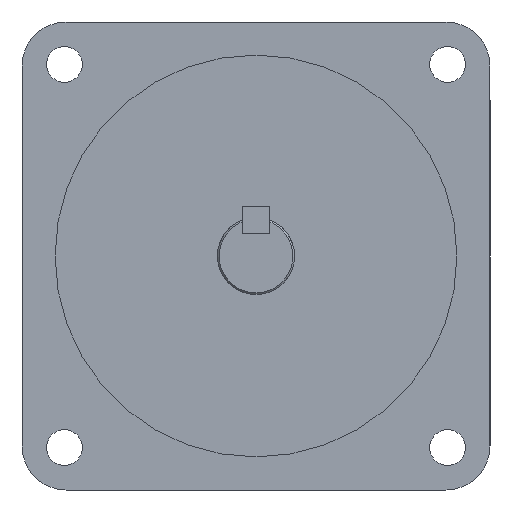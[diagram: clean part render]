
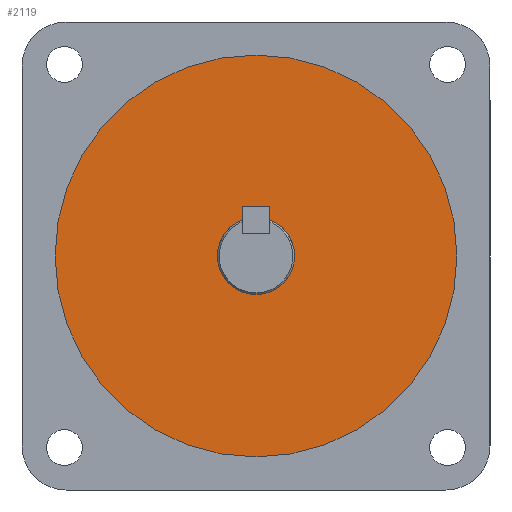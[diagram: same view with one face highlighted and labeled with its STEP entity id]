
A CAD part, left-side view. The second image highlights one B-rep face of the part: STEP entity #2119.
In plain terms, the highlighted planar face has unit normal (-1, 0, 0).
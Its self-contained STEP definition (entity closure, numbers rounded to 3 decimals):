
#7 = VERTEX_POINT ( 'NONE', #2436 ) ;
#60 = AXIS2_PLACEMENT_3D ( 'NONE', #2838, #2529, #2242 ) ;
#145 = EDGE_CURVE ( 'NONE', #1381, #2190, #1468, .T. ) ;
#214 = DIRECTION ( 'NONE',  ( 0., 0., 1. ) ) ;
#451 = ORIENTED_EDGE ( 'NONE', *, *, #763, .T. ) ;
#469 = CARTESIAN_POINT ( 'NONE',  ( -1.5, 0., 7. ) ) ;
#496 = DIRECTION ( 'NONE',  ( -1., 0., 0. ) ) ;
#526 = PLANE ( 'NONE',  #60 ) ;
#702 = AXIS2_PLACEMENT_3D ( 'NONE', #860, #1082, #774 ) ;
#763 = EDGE_CURVE ( 'NONE', #1934, #7, #1262, .T. ) ;
#774 = DIRECTION ( 'NONE',  ( 0., 0., 1. ) ) ;
#803 = CARTESIAN_POINT ( 'NONE',  ( -1.5, 0., 0. ) ) ;
#815 = EDGE_LOOP ( 'NONE', ( #1795, #1090 ) ) ;
#840 = CIRCLE ( 'NONE', #1216, 36.5 ) ;
#860 = CARTESIAN_POINT ( 'NONE',  ( -1.5, 0., 0. ) ) ;
#879 = FACE_OUTER_BOUND ( 'NONE', #2254, .T. ) ;
#973 = ORIENTED_EDGE ( 'NONE', *, *, #1926, .T. ) ;
#1003 = CARTESIAN_POINT ( 'NONE',  ( -1.5, 0., -7. ) ) ;
#1082 = DIRECTION ( 'NONE',  ( -1., 0., 0. ) ) ;
#1090 = ORIENTED_EDGE ( 'NONE', *, *, #145, .F. ) ;
#1216 = AXIS2_PLACEMENT_3D ( 'NONE', #803, #496, #214 ) ;
#1262 = CIRCLE ( 'NONE', #702, 36.5 ) ;
#1328 = AXIS2_PLACEMENT_3D ( 'NONE', #2156, #2379, #2073 ) ;
#1381 = VERTEX_POINT ( 'NONE', #469 ) ;
#1468 = CIRCLE ( 'NONE', #1328, 7. ) ;
#1577 = AXIS2_PLACEMENT_3D ( 'NONE', #2679, #2075, #1794 ) ;
#1616 = CARTESIAN_POINT ( 'NONE',  ( -1.5, 0., 36.5 ) ) ;
#1702 = EDGE_CURVE ( 'NONE', #2190, #1381, #2829, .T. ) ;
#1794 = DIRECTION ( 'NONE',  ( 0., 0., 1. ) ) ;
#1795 = ORIENTED_EDGE ( 'NONE', *, *, #1702, .F. ) ;
#1926 = EDGE_CURVE ( 'NONE', #7, #1934, #840, .T. ) ;
#1934 = VERTEX_POINT ( 'NONE', #1616 ) ;
#2073 = DIRECTION ( 'NONE',  ( 0., 0., 1. ) ) ;
#2075 = DIRECTION ( 'NONE',  ( -1., 0., 0. ) ) ;
#2119 = ADVANCED_FACE ( 'NONE', ( #879, #2799 ), #526, .T. ) ;
#2156 = CARTESIAN_POINT ( 'NONE',  ( -1.5, 0., 0. ) ) ;
#2190 = VERTEX_POINT ( 'NONE', #1003 ) ;
#2242 = DIRECTION ( 'NONE',  ( 0., 0., 1. ) ) ;
#2254 = EDGE_LOOP ( 'NONE', ( #973, #451 ) ) ;
#2379 = DIRECTION ( 'NONE',  ( -1., 0., 0. ) ) ;
#2436 = CARTESIAN_POINT ( 'NONE',  ( -1.5, 0., -36.5 ) ) ;
#2529 = DIRECTION ( 'NONE',  ( -1., 0., 0. ) ) ;
#2679 = CARTESIAN_POINT ( 'NONE',  ( -1.5, 0., 0. ) ) ;
#2799 = FACE_BOUND ( 'NONE', #815, .T. ) ;
#2829 = CIRCLE ( 'NONE', #1577, 7. ) ;
#2838 = CARTESIAN_POINT ( 'NONE',  ( -1.5, 0., 0. ) ) ;
